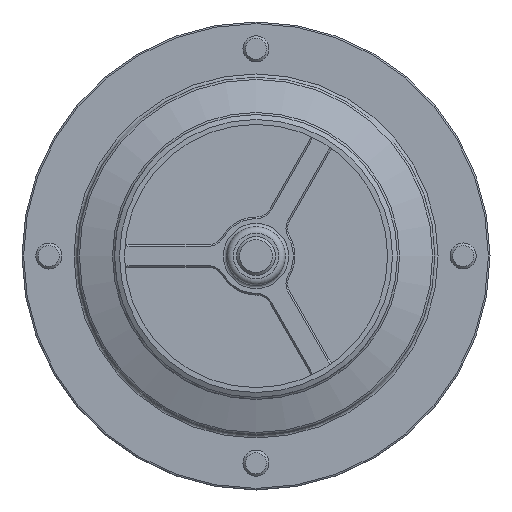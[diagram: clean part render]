
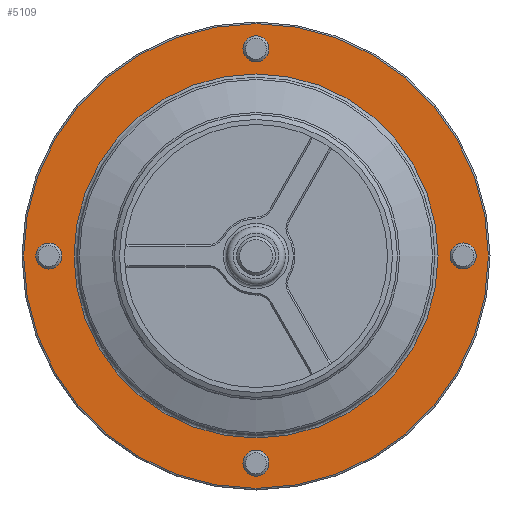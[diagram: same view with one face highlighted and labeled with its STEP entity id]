
A CAD part, left-side view. The second image highlights one B-rep face of the part: STEP entity #5109.
In plain terms, the highlighted planar face has unit normal (-1, 0, 0).
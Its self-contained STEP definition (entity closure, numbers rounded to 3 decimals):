
#84=CARTESIAN_POINT('',(-27.45,63.75,-4.));
#85=VERTEX_POINT('',#84);
#86=CARTESIAN_POINT('',(-27.45,63.75,0.));
#87=DIRECTION('',(1.0,0.0,0.0));
#88=DIRECTION('',(0.0,0.0,1.0));
#89=AXIS2_PLACEMENT_3D('',#86,#87,#88);
#90=CIRCLE('',#89,4.);
#91=EDGE_CURVE('',#85,#85,#90,.T.);
#556=CARTESIAN_POINT('',(-27.45,-4.,-63.75));
#557=VERTEX_POINT('',#556);
#558=CARTESIAN_POINT('',(-27.45,0.,-63.75));
#559=DIRECTION('',(1.0,0.0,0.0));
#560=DIRECTION('',(0.0,1.0,0.0));
#561=AXIS2_PLACEMENT_3D('',#558,#559,#560);
#562=CIRCLE('',#561,4.);
#563=EDGE_CURVE('',#557,#557,#562,.T.);
#1028=CARTESIAN_POINT('',(-27.45,-63.75,4.));
#1029=VERTEX_POINT('',#1028);
#1030=CARTESIAN_POINT('',(-27.45,-63.75,0.));
#1031=DIRECTION('',(1.0,0.0,0.0));
#1032=DIRECTION('',(0.0,0.0,-1.0));
#1033=AXIS2_PLACEMENT_3D('',#1030,#1031,#1032);
#1034=CIRCLE('',#1033,4.);
#1035=EDGE_CURVE('',#1029,#1029,#1034,.T.);
#1500=CARTESIAN_POINT('',(-27.45,4.,63.75));
#1501=VERTEX_POINT('',#1500);
#1502=CARTESIAN_POINT('',(-27.45,0.,63.75));
#1503=DIRECTION('',(1.0,0.0,0.0));
#1504=DIRECTION('',(0.0,-1.0,0.0));
#1505=AXIS2_PLACEMENT_3D('',#1502,#1503,#1504);
#1506=CIRCLE('',#1505,4.);
#1507=EDGE_CURVE('',#1501,#1501,#1506,.T.);
#5066=CARTESIAN_POINT('',(-27.45,-71.5,0.));
#5067=VERTEX_POINT('',#5066);
#5068=CARTESIAN_POINT('',(-27.45,0.,0.));
#5069=DIRECTION('',(1.0,0.0,0.0));
#5070=DIRECTION('',(0.0,1.0,0.0));
#5071=AXIS2_PLACEMENT_3D('',#5068,#5069,#5070);
#5072=CIRCLE('',#5071,71.5);
#5073=EDGE_CURVE('',#5067,#5067,#5072,.T.);
#5078=CARTESIAN_POINT('',(-27.45,-64.,0.));
#5079=DIRECTION('',(-1.0,0.0,0.0));
#5080=DIRECTION('',(0.0,0.0,-1.0));
#5081=AXIS2_PLACEMENT_3D('',#5078,#5079,#5080);
#5082=PLANE('',#5081);
#5083=ORIENTED_EDGE('',*,*,#5073,.F.);
#5084=EDGE_LOOP('',(#5083));
#5085=FACE_OUTER_BOUND('',#5084,.T.);
#5086=ORIENTED_EDGE('',*,*,#91,.T.);
#5087=EDGE_LOOP('',(#5086));
#5088=FACE_BOUND('',#5087,.T.);
#5089=ORIENTED_EDGE('',*,*,#563,.T.);
#5090=EDGE_LOOP('',(#5089));
#5091=FACE_BOUND('',#5090,.T.);
#5092=ORIENTED_EDGE('',*,*,#1035,.T.);
#5093=EDGE_LOOP('',(#5092));
#5094=FACE_BOUND('',#5093,.T.);
#5095=ORIENTED_EDGE('',*,*,#1507,.T.);
#5096=EDGE_LOOP('',(#5095));
#5097=FACE_BOUND('',#5096,.T.);
#5098=CARTESIAN_POINT('',(-27.45,-56.,0.));
#5099=VERTEX_POINT('',#5098);
#5100=CARTESIAN_POINT('',(-27.45,0.,0.));
#5101=DIRECTION('',(-1.0,0.0,0.0));
#5102=DIRECTION('',(0.0,-1.0,0.0));
#5103=AXIS2_PLACEMENT_3D('',#5100,#5101,#5102);
#5104=CIRCLE('',#5103,56.0);
#5105=EDGE_CURVE('',#5099,#5099,#5104,.T.);
#5106=ORIENTED_EDGE('',*,*,#5105,.F.);
#5107=EDGE_LOOP('',(#5106));
#5108=FACE_BOUND('',#5107,.T.);
#5109=ADVANCED_FACE('',(#5085,#5088,#5091,#5094,#5097,#5108),#5082,.T.);
